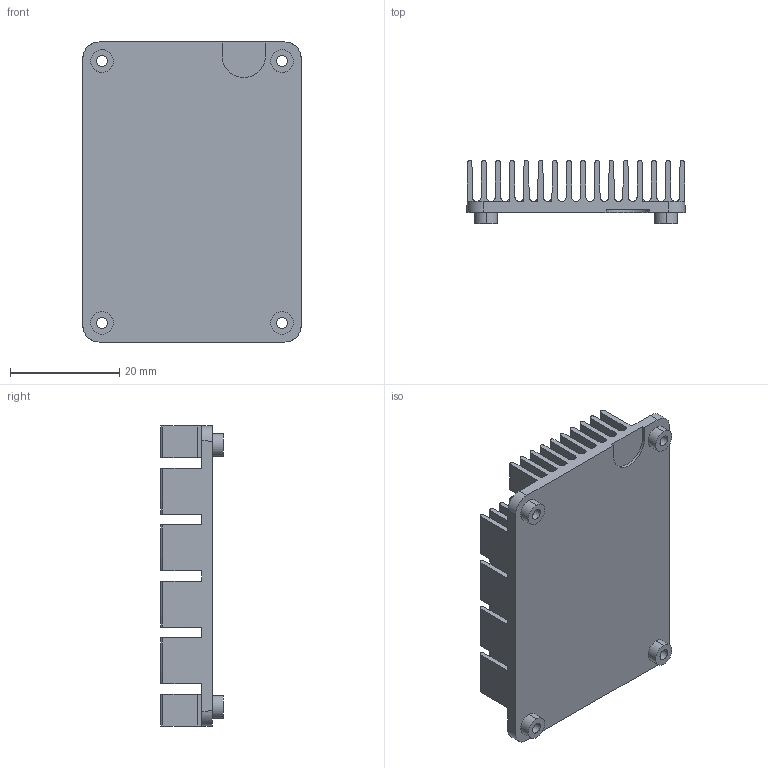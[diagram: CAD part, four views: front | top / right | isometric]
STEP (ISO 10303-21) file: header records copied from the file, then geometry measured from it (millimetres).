
FILE_DESCRIPTION((''),'2;1');
FILE_NAME('CM3_000_ASM','2024-03-19T18:20:57',('admin'),(''),'CREO PARAMETRIC BY PTC INC, 2023424','CREO PARAMETRIC BY PTC INC, 2023424','');
FILE_SCHEMA(('CONFIG_CONTROL_DESIGN','SHAPE_APPEARANCE_LAYERS_GROUPS'));
Length unit declared in the file: millimetre
Products named in the file (7): CM4000_18_1_2_1_11; CM4000_18_1_2_2_11; CM4000_18_1_2_3_11; CM4000_18_1_2_4_11; CM4000_18_1_2_5_11; CM4000_18_1_2_ASM_11_ASM; CM3_000_ASM
Assembly tree (6 placements, depth 3):
  CM3_000_ASM
    CM4000_18_1_2_ASM_11_ASM
      CM4000_18_1_2_1_11
      CM4000_18_1_2_2_11
      CM4000_18_1_2_3_11
      CM4000_18_1_2_4_11
      CM4000_18_1_2_5_11
Bounding box: 40 x 11.5 x 55 mm (x, y, z)
Volume: 9086.1 mm3; surface area: 15443.9 mm2
Topology: 5 solids, 5 shells, 774 faces, 2120 edges, 1416 vertices
Faces by surface type: plane 433, cylinder 341
Entity records: 26192 total; most frequent: CARTESIAN_POINT 4506, DIRECTION 4358, ORIENTED_EDGE 4240, EDGE_CURVE 2120, AXIS2_PLACEMENT_3D 1466, VECTOR 1426, LINE 1426, VERTEX_POINT 1416
